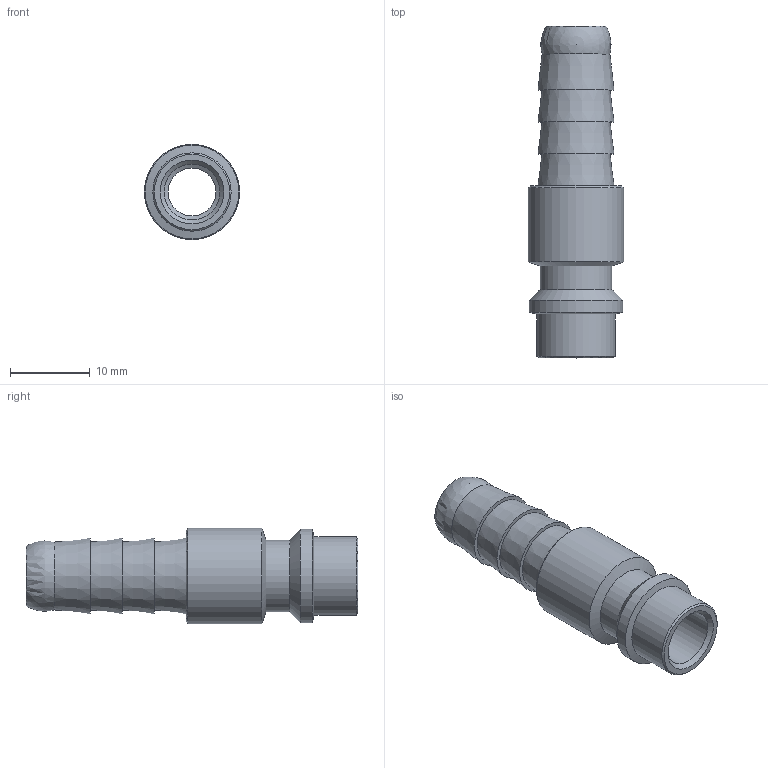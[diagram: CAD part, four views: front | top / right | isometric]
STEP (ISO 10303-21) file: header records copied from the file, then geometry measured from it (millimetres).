
FILE_DESCRIPTION(/* description */ (''),/* implementation_level */ '2;1');
FILE_NAME(/* name */ 'S:\_Tecnico\ArchivioUT\_Disegni3D ingombri\DISEGNI 3D per ingombri\GD\GD900009.stp',/* time_stamp */ '2022-05-06T11:10:20+02:00',/* author */ ('UfficioTecnico'),/* organization */ (''),/* preprocessor_version */ 'ST-DEVELOPER v18.1',/* originating_system */ 'Autodesk Inventor 2022',/* authorisation */ '');
FILE_SCHEMA (('AUTOMOTIVE_DESIGN { 1 0 10303 214 3 1 1 }'));
Length unit declared in the file: millimetre
Products named in the file (1): GD900009
Bounding box: 11.9 x 41.5 x 11.9 mm (x, y, z)
Volume: 1866.6 mm3; surface area: 2346.7 mm2
Topology: 1 solids, 1 shells, 24 faces, 47 edges, 29 vertices
Faces by surface type: cone 11, plane 6, cylinder 6, sphere 1
Full cylindrical faces by diameter (mm): 6 x1, 7 x1, 9 x1, 9.8 x1, 11.7 x1, 11.9 x1
Entity records: 658 total; most frequent: DIRECTION 123, CARTESIAN_POINT 99, ORIENTED_EDGE 90, AXIS2_PLACEMENT_3D 53, EDGE_CURVE 45, EDGE_LOOP 32, VERTEX_POINT 29, CIRCLE 28
